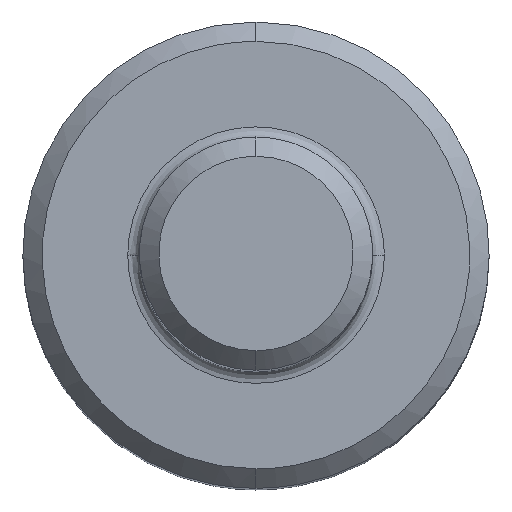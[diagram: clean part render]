
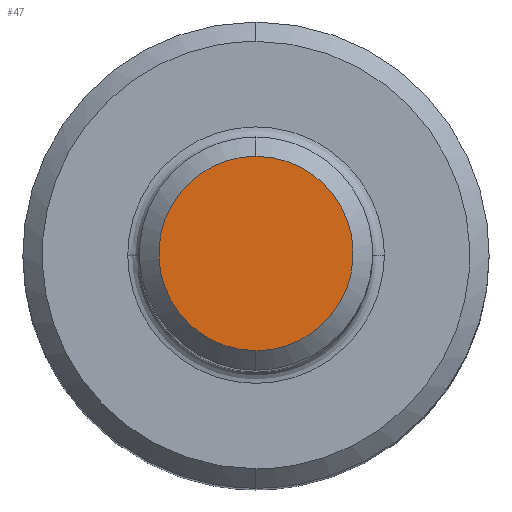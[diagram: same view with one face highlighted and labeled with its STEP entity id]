
A CAD part, top view. The second image highlights one B-rep face of the part: STEP entity #47.
In plain terms, the highlighted planar face has unit normal (0, 0, 1).
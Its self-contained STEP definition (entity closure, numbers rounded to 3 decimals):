
#47=ADVANCED_FACE('',(#69),#631,.T.);
#69=FACE_OUTER_BOUND('',#93,.T.);
#93=EDGE_LOOP('',(#184,#185));
#184=ORIENTED_EDGE('',*,*,#463,.F.);
#185=ORIENTED_EDGE('',*,*,#505,.F.);
#187=(
BOUNDED_CURVE()
B_SPLINE_CURVE(2,(#1307,#1308,#1309,#1310,#1311),.UNSPECIFIED.,.F.,.F.)
B_SPLINE_CURVE_WITH_KNOTS((3,2,3),(5.142,6.712,8.283),
 .UNSPECIFIED.)
CURVE()
GEOMETRIC_REPRESENTATION_ITEM()
RATIONAL_B_SPLINE_CURVE((1.,0.707,1.,0.707,1.))
REPRESENTATION_ITEM('')
);
#227=(
BOUNDED_CURVE()
B_SPLINE_CURVE(2,(#1655,#1656,#1657,#1658,#1659),.UNSPECIFIED.,.F.,.F.)
B_SPLINE_CURVE_WITH_KNOTS((3,2,3),(1.,2.571,4.142),
 .UNSPECIFIED.)
CURVE()
GEOMETRIC_REPRESENTATION_ITEM()
RATIONAL_B_SPLINE_CURVE((1.,0.707,1.,0.707,1.))
REPRESENTATION_ITEM('')
);
#228=(
BOUNDED_CURVE()
B_SPLINE_CURVE(2,(#1666,#1667,#1668,#1669,#1670),.UNSPECIFIED.,.F.,.F.)
B_SPLINE_CURVE_WITH_KNOTS((3,2,3),(5.142,6.712,8.283),
 .UNSPECIFIED.)
CURVE()
GEOMETRIC_REPRESENTATION_ITEM()
RATIONAL_B_SPLINE_CURVE((1.,0.707,1.,0.707,1.))
REPRESENTATION_ITEM('')
);
#229=(
BOUNDED_CURVE()
B_SPLINE_CURVE(2,(#1671,#1672,#1673,#1674,#1675),.UNSPECIFIED.,.F.,.F.)
B_SPLINE_CURVE_WITH_KNOTS((3,2,3),(1.,2.571,4.142),
 .UNSPECIFIED.)
CURVE()
GEOMETRIC_REPRESENTATION_ITEM()
RATIONAL_B_SPLINE_CURVE((1.,0.707,1.,0.707,1.))
REPRESENTATION_ITEM('')
);
#233=PCURVE('',#632,#325);
#317=PCURVE('',#649,#409);
#320=PCURVE('',#631,#412);
#321=PCURVE('',#631,#413);
#325=DEFINITIONAL_REPRESENTATION('',(#511),#1677);
#409=DEFINITIONAL_REPRESENTATION('',(#597),#1677);
#412=DEFINITIONAL_REPRESENTATION('',(#228),#1677);
#413=DEFINITIONAL_REPRESENTATION('',(#229),#1677);
#417=SURFACE_CURVE('',#187,(#233,#320),.PCURVE_S1.);
#459=SURFACE_CURVE('',#227,(#317,#321),.PCURVE_S1.);
#463=EDGE_CURVE('',#602,#600,#417,.T.);
#505=EDGE_CURVE('',#600,#602,#459,.T.);
#511=B_SPLINE_CURVE_WITH_KNOTS('',1,(#1312,#1313),.UNSPECIFIED.,.F.,.F.,
(2,2),(5.142,8.283),.UNSPECIFIED.);
#597=B_SPLINE_CURVE_WITH_KNOTS('',1,(#1660,#1661),.UNSPECIFIED.,.F.,.F.,
(2,2),(1.,4.142),.UNSPECIFIED.);
#600=VERTEX_POINT('',#1264);
#602=VERTEX_POINT('',#1266);
#631=PLANE('',#673);
#632=(
BOUNDED_SURFACE()
B_SPLINE_SURFACE(1,2,((#684,#685,#686,#687,#688,#689,#690,#691,#692),(#693,
#694,#695,#696,#697,#698,#699,#700,#701)),.UNSPECIFIED.,.F.,.F.,.F.)
B_SPLINE_SURFACE_WITH_KNOTS((2,2),(3,2,2,2,3),(0.,1.),(0.,1.571,
3.142,4.712,6.283),.UNSPECIFIED.)
GEOMETRIC_REPRESENTATION_ITEM()
RATIONAL_B_SPLINE_SURFACE(((1.,0.707,1.,0.707,1.,
0.707,1.,0.707,1.),(1.,0.707,1.,0.707,
1.,0.707,1.,0.707,1.)))
REPRESENTATION_ITEM('')
SURFACE()
);
#649=(
BOUNDED_SURFACE()
B_SPLINE_SURFACE(1,2,((#1245,#1246,#1247,#1248,#1249,#1250,#1251,#1252,#1253),
(#1254,#1255,#1256,#1257,#1258,#1259,#1260,#1261,#1262)),.UNSPECIFIED.,.F.,
 .F.,.F.)
B_SPLINE_SURFACE_WITH_KNOTS((2,2),(3,2,2,2,3),(0.,1.),(0.,1.571,
3.142,4.712,6.283),.UNSPECIFIED.)
GEOMETRIC_REPRESENTATION_ITEM()
RATIONAL_B_SPLINE_SURFACE(((1.,0.707,1.,0.707,1.,
0.707,1.,0.707,1.),(1.,0.707,1.,0.707,
1.,0.707,1.,0.707,1.)))
REPRESENTATION_ITEM('')
SURFACE()
);
#673=AXIS2_PLACEMENT_3D('',#1263,#680,$);
#680=DIRECTION('',(0.,0.,1.));
#684=CARTESIAN_POINT('',(709.,45.,43.5));
#685=CARTESIAN_POINT('',(709.,45.,43.5));
#686=CARTESIAN_POINT('',(709.,45.,43.5));
#687=CARTESIAN_POINT('',(709.,45.,43.5));
#688=CARTESIAN_POINT('',(709.,45.,43.5));
#689=CARTESIAN_POINT('',(709.,45.,43.5));
#690=CARTESIAN_POINT('',(709.,45.,43.5));
#691=CARTESIAN_POINT('',(709.,45.,43.5));
#692=CARTESIAN_POINT('',(709.,45.,43.5));
#693=CARTESIAN_POINT('',(709.,49.243,39.257));
#694=CARTESIAN_POINT('',(704.757,49.243,39.257));
#695=CARTESIAN_POINT('',(704.757,45.,39.257));
#696=CARTESIAN_POINT('',(704.757,40.757,39.257));
#697=CARTESIAN_POINT('',(709.,40.757,39.257));
#698=CARTESIAN_POINT('',(713.243,40.757,39.257));
#699=CARTESIAN_POINT('',(713.243,45.,39.257));
#700=CARTESIAN_POINT('',(713.243,49.243,39.257));
#701=CARTESIAN_POINT('',(709.,49.243,39.257));
#1245=CARTESIAN_POINT('',(709.,45.,43.5));
#1246=CARTESIAN_POINT('',(709.,45.,43.5));
#1247=CARTESIAN_POINT('',(709.,45.,43.5));
#1248=CARTESIAN_POINT('',(709.,45.,43.5));
#1249=CARTESIAN_POINT('',(709.,45.,43.5));
#1250=CARTESIAN_POINT('',(709.,45.,43.5));
#1251=CARTESIAN_POINT('',(709.,45.,43.5));
#1252=CARTESIAN_POINT('',(709.,45.,43.5));
#1253=CARTESIAN_POINT('',(709.,45.,43.5));
#1254=CARTESIAN_POINT('',(709.,49.243,39.257));
#1255=CARTESIAN_POINT('',(704.757,49.243,39.257));
#1256=CARTESIAN_POINT('',(704.757,45.,39.257));
#1257=CARTESIAN_POINT('',(704.757,40.757,39.257));
#1258=CARTESIAN_POINT('',(709.,40.757,39.257));
#1259=CARTESIAN_POINT('',(713.243,40.757,39.257));
#1260=CARTESIAN_POINT('',(713.243,45.,39.257));
#1261=CARTESIAN_POINT('',(713.243,49.243,39.257));
#1262=CARTESIAN_POINT('',(709.,49.243,39.257));
#1263=CARTESIAN_POINT('',(711.5,42.5,41.));
#1264=CARTESIAN_POINT('',(709.,47.5,41.));
#1266=CARTESIAN_POINT('',(709.,42.5,41.));
#1307=CARTESIAN_POINT('',(709.,42.5,41.));
#1308=CARTESIAN_POINT('',(706.5,42.5,41.));
#1309=CARTESIAN_POINT('',(706.5,45.,41.));
#1310=CARTESIAN_POINT('',(706.5,47.5,41.));
#1311=CARTESIAN_POINT('',(709.,47.5,41.));
#1312=CARTESIAN_POINT('',(0.589,3.142));
#1313=CARTESIAN_POINT('',(0.589,0.));
#1655=CARTESIAN_POINT('',(709.,47.5,41.));
#1656=CARTESIAN_POINT('',(711.5,47.5,41.));
#1657=CARTESIAN_POINT('',(711.5,45.,41.));
#1658=CARTESIAN_POINT('',(711.5,42.5,41.));
#1659=CARTESIAN_POINT('',(709.,42.5,41.));
#1660=CARTESIAN_POINT('',(0.589,6.283));
#1661=CARTESIAN_POINT('',(0.589,3.142));
#1666=CARTESIAN_POINT('',(0.,0.5));
#1667=CARTESIAN_POINT('',(0.,1.));
#1668=CARTESIAN_POINT('',(0.5,1.));
#1669=CARTESIAN_POINT('',(1.,1.));
#1670=CARTESIAN_POINT('',(1.,0.5));
#1671=CARTESIAN_POINT('',(1.,0.5));
#1672=CARTESIAN_POINT('',(1.,0.));
#1673=CARTESIAN_POINT('',(0.5,0.));
#1674=CARTESIAN_POINT('',(0.,0.));
#1675=CARTESIAN_POINT('',(0.,0.5));
#1677=(
GEOMETRIC_REPRESENTATION_CONTEXT(2)
PARAMETRIC_REPRESENTATION_CONTEXT()
REPRESENTATION_CONTEXT('pspace','')
);
